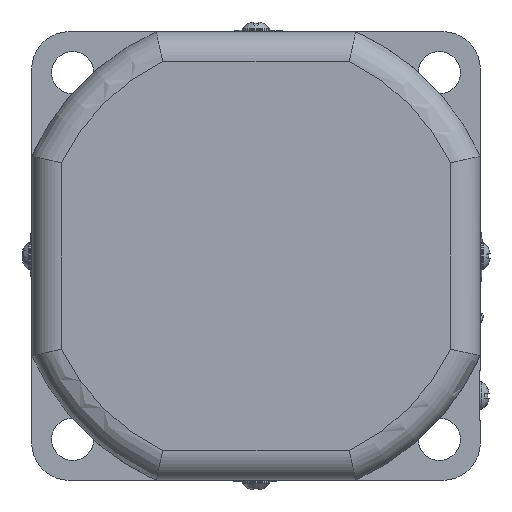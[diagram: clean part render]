
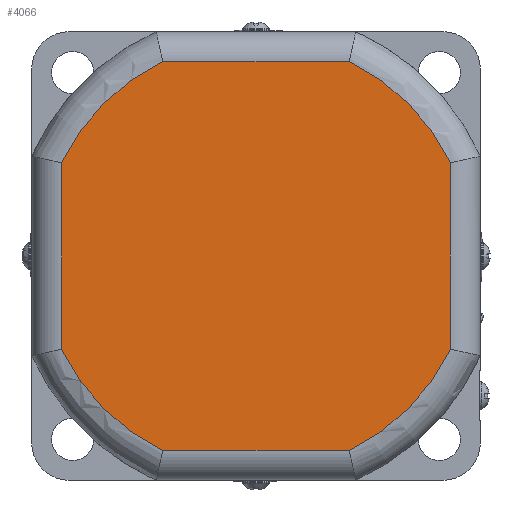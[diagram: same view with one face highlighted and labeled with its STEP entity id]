
A CAD part, left-side view. The second image highlights one B-rep face of the part: STEP entity #4066.
In plain terms, the highlighted planar face has unit normal (-1, 0, 0).
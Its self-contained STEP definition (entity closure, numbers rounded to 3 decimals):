
#220=LINE('',#6407,#529);
#223=LINE('',#6427,#532);
#224=LINE('',#6480,#533);
#225=LINE('',#6497,#534);
#529=VECTOR('',#4940,37.393);
#532=VECTOR('',#4945,37.393);
#533=VECTOR('',#4960,37.393);
#534=VECTOR('',#4963,37.393);
#973=FACE_OUTER_BOUND('',#1239,.T.);
#1239=EDGE_LOOP('',(#2857,#2858,#2859,#2860,#2861,#2862,#2863,#2864));
#1483=CIRCLE('',#4348,43.25);
#1484=CIRCLE('',#4352,43.25);
#1487=CIRCLE('',#4356,43.25);
#1488=CIRCLE('',#4360,43.25);
#1712=VERTEX_POINT('',#6357);
#1714=VERTEX_POINT('',#6374);
#1716=VERTEX_POINT('',#6392);
#1718=VERTEX_POINT('',#6411);
#1719=VERTEX_POINT('',#6429);
#1720=VERTEX_POINT('',#6447);
#1721=VERTEX_POINT('',#6465);
#1722=VERTEX_POINT('',#6482);
#2140=EDGE_CURVE('',#1714,#1712,#1483,.T.);
#2142=EDGE_CURVE('',#1716,#1714,#220,.T.);
#2146=EDGE_CURVE('',#1712,#1718,#223,.T.);
#2148=EDGE_CURVE('',#1719,#1716,#1484,.T.);
#2152=EDGE_CURVE('',#1718,#1720,#1487,.T.);
#2154=EDGE_CURVE('',#1721,#1719,#224,.T.);
#2156=EDGE_CURVE('',#1720,#1722,#225,.T.);
#2157=EDGE_CURVE('',#1722,#1721,#1488,.T.);
#2857=ORIENTED_EDGE('',*,*,#2156,.F.);
#2858=ORIENTED_EDGE('',*,*,#2152,.F.);
#2859=ORIENTED_EDGE('',*,*,#2146,.F.);
#2860=ORIENTED_EDGE('',*,*,#2140,.F.);
#2861=ORIENTED_EDGE('',*,*,#2142,.F.);
#2862=ORIENTED_EDGE('',*,*,#2148,.F.);
#2863=ORIENTED_EDGE('',*,*,#2154,.F.);
#2864=ORIENTED_EDGE('',*,*,#2157,.F.);
#3647=PLANE('',#4362);
#4066=ADVANCED_FACE('',(#973),#3647,.F.);
#4348=AXIS2_PLACEMENT_3D('',#6389,#4936,#4937);
#4352=AXIS2_PLACEMENT_3D('',#6444,#4948,#4949);
#4356=AXIS2_PLACEMENT_3D('',#6463,#4956,#4957);
#4360=AXIS2_PLACEMENT_3D('',#6499,#4966,#4967);
#4362=AXIS2_PLACEMENT_3D('',#6501,#4970,#4971);
#4936=DIRECTION('center_axis',(1.,0.,0.));
#4937=DIRECTION('ref_axis',(0.,0.707,0.707));
#4940=DIRECTION('',(0.,0.,1.));
#4945=DIRECTION('',(0.,-1.,0.));
#4948=DIRECTION('center_axis',(1.,0.,0.));
#4949=DIRECTION('ref_axis',(0.,0.707,-0.707));
#4956=DIRECTION('center_axis',(1.,0.,0.));
#4957=DIRECTION('ref_axis',(0.,-0.707,0.707));
#4960=DIRECTION('',(0.,1.,0.));
#4963=DIRECTION('',(0.,0.,-1.));
#4966=DIRECTION('center_axis',(1.,0.,0.));
#4967=DIRECTION('ref_axis',(0.,-0.707,-0.707));
#4970=DIRECTION('center_axis',(1.,0.,0.));
#4971=DIRECTION('ref_axis',(0.,0.,1.));
#6357=CARTESIAN_POINT('',(-58.3,18.697,39.));
#6374=CARTESIAN_POINT('',(-58.3,39.,18.697));
#6389=CARTESIAN_POINT('Origin',(-58.3,0.,
0.));
#6392=CARTESIAN_POINT('',(-58.3,39.,-18.697));
#6407=CARTESIAN_POINT('',(-58.3,39.,-18.697));
#6411=CARTESIAN_POINT('',(-58.3,-18.697,39.));
#6427=CARTESIAN_POINT('',(-58.3,18.697,39.));
#6429=CARTESIAN_POINT('',(-58.3,18.697,-39.));
#6444=CARTESIAN_POINT('Origin',(-58.3,0.,
0.));
#6447=CARTESIAN_POINT('',(-58.3,-39.,18.697));
#6463=CARTESIAN_POINT('Origin',(-58.3,0.,
0.));
#6465=CARTESIAN_POINT('',(-58.3,-18.697,-39.));
#6480=CARTESIAN_POINT('',(-58.3,-18.697,-39.));
#6482=CARTESIAN_POINT('',(-58.3,-39.,-18.697));
#6497=CARTESIAN_POINT('',(-58.3,-39.,18.697));
#6499=CARTESIAN_POINT('Origin',(-58.3,0.,
0.));
#6501=CARTESIAN_POINT('Origin',(-58.3,0.,
0.));
